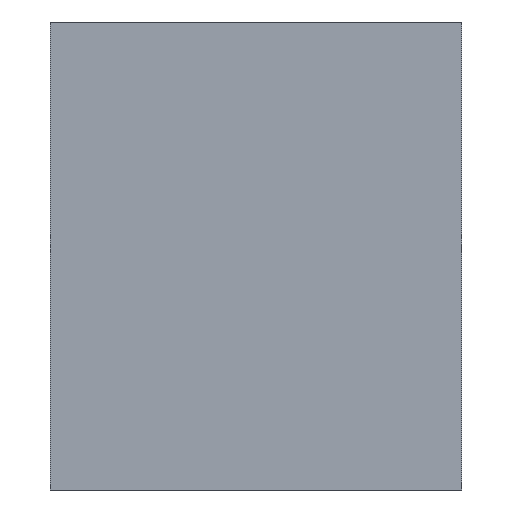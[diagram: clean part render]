
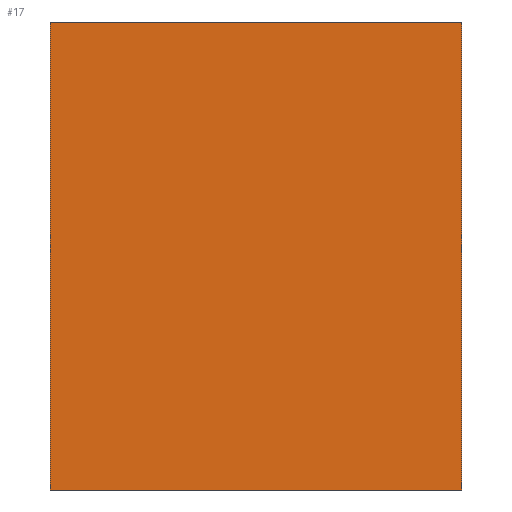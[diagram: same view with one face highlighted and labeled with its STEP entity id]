
A CAD part, left-side view. The second image highlights one B-rep face of the part: STEP entity #17.
In plain terms, the highlighted planar face has unit normal (-1, 0, 0).
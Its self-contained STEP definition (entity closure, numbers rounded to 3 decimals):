
#17 = ADVANCED_FACE('',(#18),#32,.F.);
#18 = FACE_BOUND('',#19,.F.);
#19 = EDGE_LOOP('',(#20,#55,#83,#111));
#20 = ORIENTED_EDGE('',*,*,#21,.F.);
#21 = EDGE_CURVE('',#22,#24,#26,.T.);
#22 = VERTEX_POINT('',#23);
#23 = CARTESIAN_POINT('',(40.,-11.,3.));
#24 = VERTEX_POINT('',#25);
#25 = CARTESIAN_POINT('',(40.,-11.,28.));
#26 = SURFACE_CURVE('',#27,(#31,#43),.PCURVE_S1.);
#27 = LINE('',#28,#29);
#28 = CARTESIAN_POINT('',(40.,-11.,3.));
#29 = VECTOR('',#30,1.);
#30 = DIRECTION('',(0.,0.,1.));
#31 = PCURVE('',#32,#37);
#32 = PLANE('',#33);
#33 = AXIS2_PLACEMENT_3D('',#34,#35,#36);
#34 = CARTESIAN_POINT('',(40.,-11.,3.));
#35 = DIRECTION('',(1.,0.,0.));
#36 = DIRECTION('',(0.,0.,1.));
#37 = DEFINITIONAL_REPRESENTATION('',(#38),#42);
#38 = LINE('',#39,#40);
#39 = CARTESIAN_POINT('',(0.,0.));
#40 = VECTOR('',#41,1.);
#41 = DIRECTION('',(1.,0.));
#42 = ( GEOMETRIC_REPRESENTATION_CONTEXT(2)
PARAMETRIC_REPRESENTATION_CONTEXT() REPRESENTATION_CONTEXT('2D SPACE',''
  ) );
#43 = PCURVE('',#44,#49);
#44 = PLANE('',#45);
#45 = AXIS2_PLACEMENT_3D('',#46,#47,#48);
#46 = CARTESIAN_POINT('',(40.,-11.,3.));
#47 = DIRECTION('',(0.,1.,0.));
#48 = DIRECTION('',(0.,0.,1.));
#49 = DEFINITIONAL_REPRESENTATION('',(#50),#54);
#50 = LINE('',#51,#52);
#51 = CARTESIAN_POINT('',(0.,0.));
#52 = VECTOR('',#53,1.);
#53 = DIRECTION('',(1.,0.));
#54 = ( GEOMETRIC_REPRESENTATION_CONTEXT(2)
PARAMETRIC_REPRESENTATION_CONTEXT() REPRESENTATION_CONTEXT('2D SPACE',''
  ) );
#55 = ORIENTED_EDGE('',*,*,#56,.T.);
#56 = EDGE_CURVE('',#22,#57,#59,.T.);
#57 = VERTEX_POINT('',#58);
#58 = CARTESIAN_POINT('',(40.,11.,3.));
#59 = SURFACE_CURVE('',#60,(#64,#71),.PCURVE_S1.);
#60 = LINE('',#61,#62);
#61 = CARTESIAN_POINT('',(40.,-11.,3.));
#62 = VECTOR('',#63,1.);
#63 = DIRECTION('',(0.,1.,0.));
#64 = PCURVE('',#32,#65);
#65 = DEFINITIONAL_REPRESENTATION('',(#66),#70);
#66 = LINE('',#67,#68);
#67 = CARTESIAN_POINT('',(0.,0.));
#68 = VECTOR('',#69,1.);
#69 = DIRECTION('',(0.,-1.));
#70 = ( GEOMETRIC_REPRESENTATION_CONTEXT(2)
PARAMETRIC_REPRESENTATION_CONTEXT() REPRESENTATION_CONTEXT('2D SPACE',''
  ) );
#71 = PCURVE('',#72,#77);
#72 = PLANE('',#73);
#73 = AXIS2_PLACEMENT_3D('',#74,#75,#76);
#74 = CARTESIAN_POINT('',(40.,-11.,3.));
#75 = DIRECTION('',(0.,0.,1.));
#76 = DIRECTION('',(1.,0.,0.));
#77 = DEFINITIONAL_REPRESENTATION('',(#78),#82);
#78 = LINE('',#79,#80);
#79 = CARTESIAN_POINT('',(0.,0.));
#80 = VECTOR('',#81,1.);
#81 = DIRECTION('',(0.,1.));
#82 = ( GEOMETRIC_REPRESENTATION_CONTEXT(2)
PARAMETRIC_REPRESENTATION_CONTEXT() REPRESENTATION_CONTEXT('2D SPACE',''
  ) );
#83 = ORIENTED_EDGE('',*,*,#84,.T.);
#84 = EDGE_CURVE('',#57,#85,#87,.T.);
#85 = VERTEX_POINT('',#86);
#86 = CARTESIAN_POINT('',(40.,11.,28.));
#87 = SURFACE_CURVE('',#88,(#92,#99),.PCURVE_S1.);
#88 = LINE('',#89,#90);
#89 = CARTESIAN_POINT('',(40.,11.,3.));
#90 = VECTOR('',#91,1.);
#91 = DIRECTION('',(0.,0.,1.));
#92 = PCURVE('',#32,#93);
#93 = DEFINITIONAL_REPRESENTATION('',(#94),#98);
#94 = LINE('',#95,#96);
#95 = CARTESIAN_POINT('',(0.,-22.));
#96 = VECTOR('',#97,1.);
#97 = DIRECTION('',(1.,0.));
#98 = ( GEOMETRIC_REPRESENTATION_CONTEXT(2)
PARAMETRIC_REPRESENTATION_CONTEXT() REPRESENTATION_CONTEXT('2D SPACE',''
  ) );
#99 = PCURVE('',#100,#105);
#100 = PLANE('',#101);
#101 = AXIS2_PLACEMENT_3D('',#102,#103,#104);
#102 = CARTESIAN_POINT('',(40.,11.,3.));
#103 = DIRECTION('',(0.,1.,0.));
#104 = DIRECTION('',(0.,0.,1.));
#105 = DEFINITIONAL_REPRESENTATION('',(#106),#110);
#106 = LINE('',#107,#108);
#107 = CARTESIAN_POINT('',(0.,0.));
#108 = VECTOR('',#109,1.);
#109 = DIRECTION('',(1.,0.));
#110 = ( GEOMETRIC_REPRESENTATION_CONTEXT(2)
PARAMETRIC_REPRESENTATION_CONTEXT() REPRESENTATION_CONTEXT('2D SPACE',''
  ) );
#111 = ORIENTED_EDGE('',*,*,#112,.F.);
#112 = EDGE_CURVE('',#24,#85,#113,.T.);
#113 = SURFACE_CURVE('',#114,(#118,#125),.PCURVE_S1.);
#114 = LINE('',#115,#116);
#115 = CARTESIAN_POINT('',(40.,-11.,28.));
#116 = VECTOR('',#117,1.);
#117 = DIRECTION('',(0.,1.,0.));
#118 = PCURVE('',#32,#119);
#119 = DEFINITIONAL_REPRESENTATION('',(#120),#124);
#120 = LINE('',#121,#122);
#121 = CARTESIAN_POINT('',(25.,0.));
#122 = VECTOR('',#123,1.);
#123 = DIRECTION('',(0.,-1.));
#124 = ( GEOMETRIC_REPRESENTATION_CONTEXT(2)
PARAMETRIC_REPRESENTATION_CONTEXT() REPRESENTATION_CONTEXT('2D SPACE',''
  ) );
#125 = PCURVE('',#126,#131);
#126 = PLANE('',#127);
#127 = AXIS2_PLACEMENT_3D('',#128,#129,#130);
#128 = CARTESIAN_POINT('',(40.,-11.,28.));
#129 = DIRECTION('',(0.,0.,1.));
#130 = DIRECTION('',(1.,0.,0.));
#131 = DEFINITIONAL_REPRESENTATION('',(#132),#136);
#132 = LINE('',#133,#134);
#133 = CARTESIAN_POINT('',(0.,0.));
#134 = VECTOR('',#135,1.);
#135 = DIRECTION('',(0.,1.));
#136 = ( GEOMETRIC_REPRESENTATION_CONTEXT(2)
PARAMETRIC_REPRESENTATION_CONTEXT() REPRESENTATION_CONTEXT('2D SPACE',''
  ) );
